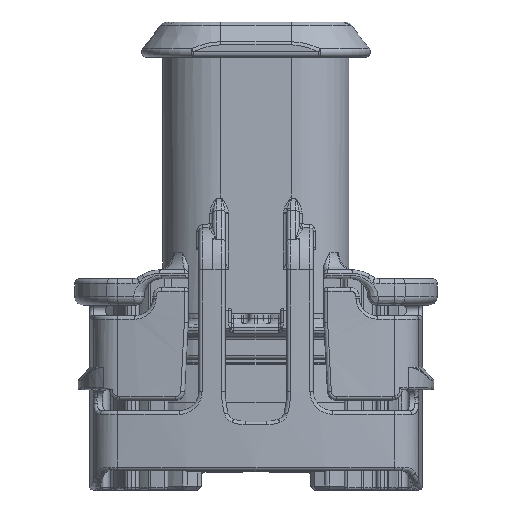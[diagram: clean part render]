
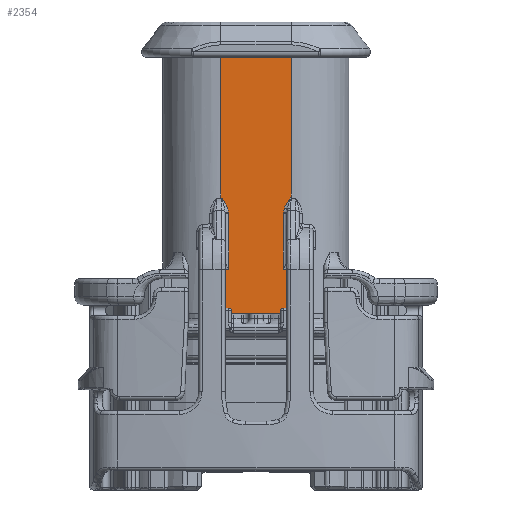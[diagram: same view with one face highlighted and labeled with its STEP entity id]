
A CAD part, front view. The second image highlights one B-rep face of the part: STEP entity #2354.
In plain terms, the highlighted planar face has unit normal (0, -1, 0).
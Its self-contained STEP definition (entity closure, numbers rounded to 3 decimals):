
#413=ELLIPSE('',#24926,0.566,0.4);
#414=ELLIPSE('',#24927,0.566,0.4);
#1024=B_SPLINE_CURVE_WITH_KNOTS('',3,(#37938,#37939,#37940,#37941),
 .UNSPECIFIED.,.F.,.F.,(4,4),(0.,1.),.UNSPECIFIED.);
#1025=B_SPLINE_CURVE_WITH_KNOTS('',3,(#37943,#37944,#37945,#37946),
 .UNSPECIFIED.,.F.,.F.,(4,4),(0.,1.),.UNSPECIFIED.);
#1026=B_SPLINE_CURVE_WITH_KNOTS('',3,(#37948,#37949,#37950,#37951),
 .UNSPECIFIED.,.F.,.F.,(4,4),(0.,1.),.UNSPECIFIED.);
#1027=B_SPLINE_CURVE_WITH_KNOTS('',3,(#37956,#37957,#37958,#37959,#37960,
#37961,#37962),.UNSPECIFIED.,.F.,.F.,(4,3,4),(0.,0.202,1.),
 .UNSPECIFIED.);
#1028=B_SPLINE_CURVE_WITH_KNOTS('',3,(#37964,#37965,#37966,#37967,#37968,
#37969,#37970,#37971,#37972,#37973,#37974,#37975,#37976,#37977),
 .UNSPECIFIED.,.F.,.F.,(4,2,2,2,2,2,4),(0.,0.031,0.063,
0.125,0.25,0.5,1.),.UNSPECIFIED.);
#1681=PLANE('',#24928);
#2354=ADVANCED_FACE('',(#4315),#1681,.T.);
#4315=FACE_OUTER_BOUND('',#5797,.T.);
#5797=EDGE_LOOP('',(#11476,#11477,#11478,#11479,#11480,#11481,#11482,#11483,
#11484,#11485,#11486,#11487,#11488,#11489,#11490,#11491,#11492,#11493,#11494,
#11495,#11496,#11497,#11498));
#7057=LINE('',#34219,#8521);
#7070=LINE('',#34281,#8535);
#7171=LINE('',#34818,#8636);
#7178=LINE('',#34853,#8643);
#7250=LINE('',#37818,#8715);
#7253=LINE('',#37884,#8718);
#7256=LINE('',#37929,#8721);
#7257=LINE('',#37930,#8722);
#7258=LINE('',#37932,#8723);
#7259=LINE('',#37934,#8724);
#7260=LINE('',#37953,#8725);
#7261=LINE('',#37955,#8726);
#7262=LINE('',#37981,#8727);
#7263=LINE('',#37983,#8728);
#8521=VECTOR('',#27144,1.);
#8535=VECTOR('',#27172,1.);
#8636=VECTOR('',#27379,1.);
#8643=VECTOR('',#27390,1.);
#8715=VECTOR('',#28348,1.);
#8718=VECTOR('',#28353,1.);
#8721=VECTOR('',#28364,1.);
#8722=VECTOR('',#28365,1.);
#8723=VECTOR('',#28366,1.);
#8724=VECTOR('',#28367,1.);
#8725=VECTOR('',#28370,1.);
#8726=VECTOR('',#28371,1.);
#8727=VECTOR('',#28374,1.);
#8728=VECTOR('',#28375,1.);
#11476=ORIENTED_EDGE('',*,*,#19575,.F.);
#11477=ORIENTED_EDGE('',*,*,#20098,.T.);
#11478=ORIENTED_EDGE('',*,*,#19772,.T.);
#11479=ORIENTED_EDGE('',*,*,#20251,.F.);
#11480=ORIENTED_EDGE('',*,*,#19763,.F.);
#11481=ORIENTED_EDGE('',*,*,#20154,.T.);
#11482=ORIENTED_EDGE('',*,*,#19597,.T.);
#11483=ORIENTED_EDGE('',*,*,#20252,.F.);
#11484=ORIENTED_EDGE('',*,*,#20253,.T.);
#11485=ORIENTED_EDGE('',*,*,#20254,.T.);
#11486=ORIENTED_EDGE('',*,*,#20255,.T.);
#11487=ORIENTED_EDGE('',*,*,#20256,.T.);
#11488=ORIENTED_EDGE('',*,*,#20257,.T.);
#11489=ORIENTED_EDGE('',*,*,#20258,.T.);
#11490=ORIENTED_EDGE('',*,*,#20259,.F.);
#11491=ORIENTED_EDGE('',*,*,#20260,.T.);
#11492=ORIENTED_EDGE('',*,*,#20240,.T.);
#11493=ORIENTED_EDGE('',*,*,#20261,.T.);
#11494=ORIENTED_EDGE('',*,*,#20262,.T.);
#11495=ORIENTED_EDGE('',*,*,#20263,.T.);
#11496=ORIENTED_EDGE('',*,*,#20264,.T.);
#11497=ORIENTED_EDGE('',*,*,#20265,.T.);
#11498=ORIENTED_EDGE('',*,*,#20228,.T.);
#17376=VERTEX_POINT('',#34220);
#17377=VERTEX_POINT('',#34221);
#17396=VERTEX_POINT('',#34279);
#17398=VERTEX_POINT('',#34282);
#17563=VERTEX_POINT('',#34819);
#17564=VERTEX_POINT('',#34820);
#17571=VERTEX_POINT('',#34851);
#17573=VERTEX_POINT('',#34854);
#17715=VERTEX_POINT('',#37819);
#17726=VERTEX_POINT('',#37883);
#17727=VERTEX_POINT('',#37885);
#17737=VERTEX_POINT('',#37931);
#17738=VERTEX_POINT('',#37933);
#17739=VERTEX_POINT('',#37935);
#17740=VERTEX_POINT('',#37937);
#17741=VERTEX_POINT('',#37942);
#17742=VERTEX_POINT('',#37947);
#17743=VERTEX_POINT('',#37952);
#17744=VERTEX_POINT('',#37954);
#17745=VERTEX_POINT('',#37963);
#17746=VERTEX_POINT('',#37978);
#17747=VERTEX_POINT('',#37980);
#17748=VERTEX_POINT('',#37982);
#19575=EDGE_CURVE('',#17376,#17377,#7057,.T.);
#19597=EDGE_CURVE('',#17398,#17396,#7070,.T.);
#19763=EDGE_CURVE('',#17563,#17564,#7171,.T.);
#19772=EDGE_CURVE('',#17573,#17571,#7178,.T.);
#20098=EDGE_CURVE('',#17376,#17573,#23315,.T.);
#20154=EDGE_CURVE('',#17563,#17398,#23350,.T.);
#20228=EDGE_CURVE('',#17715,#17377,#7250,.T.);
#20240=EDGE_CURVE('',#17727,#17726,#7253,.T.);
#20251=EDGE_CURVE('',#17564,#17571,#7256,.T.);
#20252=EDGE_CURVE('',#17737,#17396,#7257,.T.);
#20253=EDGE_CURVE('',#17737,#17738,#7258,.T.);
#20254=EDGE_CURVE('',#17738,#17739,#7259,.T.);
#20255=EDGE_CURVE('',#17739,#17740,#413,.T.);
#20256=EDGE_CURVE('',#17740,#17741,#1024,.T.);
#20257=EDGE_CURVE('',#17741,#17742,#1025,.T.);
#20258=EDGE_CURVE('',#17742,#17743,#1026,.T.);
#20259=EDGE_CURVE('',#17744,#17743,#7260,.T.);
#20260=EDGE_CURVE('',#17744,#17727,#7261,.T.);
#20261=EDGE_CURVE('',#17726,#17745,#1027,.T.);
#20262=EDGE_CURVE('',#17745,#17746,#1028,.T.);
#20263=EDGE_CURVE('',#17746,#17747,#414,.T.);
#20264=EDGE_CURVE('',#17747,#17748,#7262,.T.);
#20265=EDGE_CURVE('',#17748,#17715,#7263,.T.);
#23315=CIRCLE('',#24805,0.15);
#23350=CIRCLE('',#24868,0.15);
#24805=AXIS2_PLACEMENT_3D('',#37012,#28082,#28083);
#24868=AXIS2_PLACEMENT_3D('',#37459,#28212,#28213);
#24926=AXIS2_PLACEMENT_3D('',#37936,#28368,#28369);
#24927=AXIS2_PLACEMENT_3D('',#37979,#28372,#28373);
#24928=AXIS2_PLACEMENT_3D('',#37984,#28376,#28377);
#27144=DIRECTION('',(-1.,0.,0.));
#27172=DIRECTION('',(1.,0.,0.));
#27379=DIRECTION('',(0.,0.,-1.));
#27390=DIRECTION('',(0.,0.,-1.));
#28082=DIRECTION('',(0.,1.,0.));
#28083=DIRECTION('',(1.,0.,0.));
#28212=DIRECTION('',(0.,1.,0.));
#28213=DIRECTION('',(1.,0.,0.));
#28348=DIRECTION('',(0.,0.,-1.));
#28353=DIRECTION('',(0.,0.,-1.));
#28364=DIRECTION('',(-1.,0.,0.));
#28365=DIRECTION('',(0.,0.,-1.));
#28366=DIRECTION('',(-1.,0.,0.));
#28367=DIRECTION('',(0.,0.,1.));
#28368=DIRECTION('',(0.,1.,0.));
#28369=DIRECTION('',(0.,0.,1.));
#28370=DIRECTION('',(0.,0.,-1.));
#28371=DIRECTION('',(-1.,0.,0.));
#28372=DIRECTION('',(0.,1.,0.));
#28373=DIRECTION('',(0.,0.,1.));
#28374=DIRECTION('',(0.,0.,-1.));
#28375=DIRECTION('',(-1.,0.,0.));
#28376=DIRECTION('',(0.,-1.,0.));
#28377=DIRECTION('',(1.,0.,0.));
#34219=CARTESIAN_POINT('',(-2.6,-3.3,9.275));
#34220=CARTESIAN_POINT('',(-1.55,-3.3,9.275));
#34221=CARTESIAN_POINT('',(-2.,-3.3,9.275));
#34279=CARTESIAN_POINT('',(2.,-3.3,9.275));
#34281=CARTESIAN_POINT('',(1.4,-3.3,9.275));
#34282=CARTESIAN_POINT('',(1.55,-3.3,9.275));
#34818=CARTESIAN_POINT('',(1.4,-3.3,9.275));
#34819=CARTESIAN_POINT('',(1.4,-3.3,9.125));
#34820=CARTESIAN_POINT('',(1.4,-3.3,8.95));
#34851=CARTESIAN_POINT('',(-1.4,-3.3,8.95));
#34853=CARTESIAN_POINT('',(-1.4,-3.3,9.275));
#34854=CARTESIAN_POINT('',(-1.4,-3.3,9.125));
#37012=CARTESIAN_POINT('',(-1.55,-3.3,9.125));
#37459=CARTESIAN_POINT('',(1.55,-3.3,9.125));
#37818=CARTESIAN_POINT('',(-2.,-3.3,25.525));
#37819=CARTESIAN_POINT('',(-2.,-3.3,11.494));
#37883=CARTESIAN_POINT('',(-2.,-3.3,15.53));
#37884=CARTESIAN_POINT('',(-2.,-3.3,25.525));
#37885=CARTESIAN_POINT('',(-2.,-3.3,23.525));
#37929=CARTESIAN_POINT('',(2.,-3.3,8.95));
#37930=CARTESIAN_POINT('',(2.,-3.3,25.525));
#37931=CARTESIAN_POINT('',(2.,-3.3,11.494));
#37932=CARTESIAN_POINT('',(1.75,-3.3,11.494));
#37933=CARTESIAN_POINT('',(1.55,-3.3,11.494));
#37934=CARTESIAN_POINT('',(1.55,-3.3,14.868));
#37935=CARTESIAN_POINT('',(1.55,-3.3,14.634));
#37936=CARTESIAN_POINT('',(1.95,-3.3,14.634));
#37937=CARTESIAN_POINT('',(1.556,-3.3,14.729));
#37938=CARTESIAN_POINT('',(1.556,-3.3,14.729));
#37939=CARTESIAN_POINT('',(1.565,-3.3,14.806));
#37940=CARTESIAN_POINT('',(1.584,-3.3,14.88));
#37941=CARTESIAN_POINT('',(1.611,-3.3,14.952));
#37942=CARTESIAN_POINT('',(1.611,-3.3,14.952));
#37943=CARTESIAN_POINT('',(1.611,-3.3,14.952));
#37944=CARTESIAN_POINT('',(1.689,-3.3,15.164));
#37945=CARTESIAN_POINT('',(1.821,-3.3,15.35));
#37946=CARTESIAN_POINT('',(1.95,-3.3,15.533));
#37947=CARTESIAN_POINT('',(1.95,-3.3,15.533));
#37948=CARTESIAN_POINT('',(1.95,-3.3,15.533));
#37949=CARTESIAN_POINT('',(1.967,-3.3,15.532));
#37950=CARTESIAN_POINT('',(1.983,-3.3,15.531));
#37951=CARTESIAN_POINT('',(2.,-3.3,15.53));
#37952=CARTESIAN_POINT('',(2.,-3.3,15.53));
#37953=CARTESIAN_POINT('',(2.,-3.3,25.525));
#37954=CARTESIAN_POINT('',(2.,-3.3,23.525));
#37955=CARTESIAN_POINT('',(2.,-3.3,23.525));
#37956=CARTESIAN_POINT('',(-2.,-3.3,15.53));
#37957=CARTESIAN_POINT('',(-1.996,-3.3,15.528));
#37958=CARTESIAN_POINT('',(-1.993,-3.3,15.527));
#37959=CARTESIAN_POINT('',(-1.989,-3.3,15.526));
#37960=CARTESIAN_POINT('',(-1.974,-3.3,15.52));
#37961=CARTESIAN_POINT('',(-1.96,-3.3,15.514));
#37962=CARTESIAN_POINT('',(-1.945,-3.3,15.509));
#37963=CARTESIAN_POINT('',(-1.945,-3.3,15.509));
#37964=CARTESIAN_POINT('',(-1.945,-3.3,15.509));
#37965=CARTESIAN_POINT('',(-1.936,-3.3,15.505));
#37966=CARTESIAN_POINT('',(-1.93,-3.3,15.498));
#37967=CARTESIAN_POINT('',(-1.918,-3.3,15.484));
#37968=CARTESIAN_POINT('',(-1.913,-3.3,15.476));
#37969=CARTESIAN_POINT('',(-1.896,-3.3,15.454));
#37970=CARTESIAN_POINT('',(-1.885,-3.3,15.439));
#37971=CARTESIAN_POINT('',(-1.853,-3.3,15.394));
#37972=CARTESIAN_POINT('',(-1.833,-3.3,15.364));
#37973=CARTESIAN_POINT('',(-1.772,-3.3,15.272));
#37974=CARTESIAN_POINT('',(-1.733,-3.3,15.209));
#37975=CARTESIAN_POINT('',(-1.629,-3.3,15.016));
#37976=CARTESIAN_POINT('',(-1.573,-3.3,14.877));
#37977=CARTESIAN_POINT('',(-1.556,-3.3,14.729));
#37978=CARTESIAN_POINT('',(-1.556,-3.3,14.729));
#37979=CARTESIAN_POINT('',(-1.95,-3.3,14.634));
#37980=CARTESIAN_POINT('',(-1.55,-3.3,14.634));
#37981=CARTESIAN_POINT('',(-1.55,-3.3,25.525));
#37982=CARTESIAN_POINT('',(-1.55,-3.3,11.494));
#37983=CARTESIAN_POINT('',(-2.,-3.3,11.494));
#37984=CARTESIAN_POINT('',(2.,-3.3,25.525));
